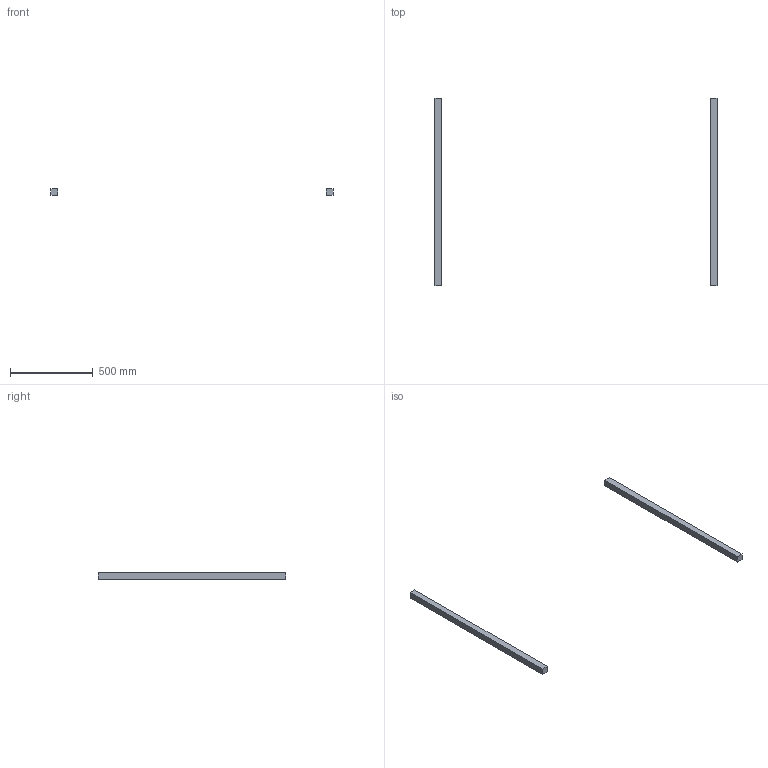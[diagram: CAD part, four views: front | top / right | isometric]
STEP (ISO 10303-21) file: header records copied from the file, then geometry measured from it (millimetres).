
FILE_DESCRIPTION(/* description */ (''),/* implementation_level */ '2;1');
FILE_NAME(/* name */ '3.frame-top#3.5#HFS5-4040-1130',/* time_stamp */ '2014-12-01T20:12:17+01:00',/* author */ (''),/* organization */ (''),/* preprocessor_version */ 'ST-DEVELOPER v14',/* originating_system */ '',/* authorisation */ '');
FILE_SCHEMA (('AUTOMOTIVE_DESIGN'));
Length unit declared in the file: millimetre
Products named in the file (1): Document
Bounding box: 1700 x 1130 x 40 mm (x, y, z)
Volume: 3616000 mm3; surface area: 368000 mm2
Topology: 2 solids, 2 shells, 12 faces, 24 edges, 16 vertices
Faces by surface type: plane 12
Entity records: 571 total; most frequent: CARTESIAN_POINT 174, B_SPLINE_CURVE_WITH_KNOTS 72, ORIENTED_EDGE 48, PCURVE 48, DEFINITIONAL_REPRESENTATION 48, SURFACE_CURVE 24, EDGE_CURVE 24, VERTEX_POINT 16
